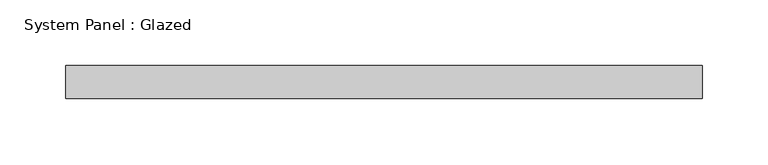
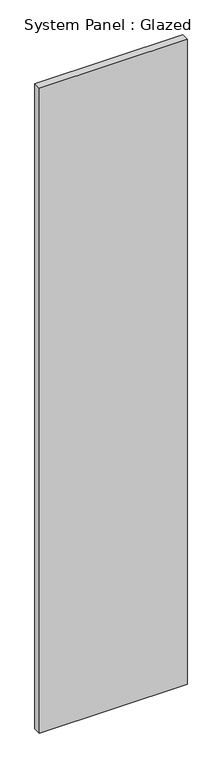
"""IFC4 building model written with IfcOpenShell, lengths in millimetres: plate geometry, System Panel : Glazed."""

from ifc_helpers import new_model, si_unit, origin, origin_with_axes, place, context, project, spatial, polyline, outline, extrude, source, transform, mapped, element, save


def system_panel_glazed_dae2c24c(model_context):
    return source(origin(), model_context, "Body", "SweptSolid", [
        extrude(outline(polyline([(241.0416667, 24.5), (-241.0416667, 24.5), (-241.0416667, 49.5), (241.0416667, 49.5), (241.0416667, 24.5)])), origin_with_axes(), (0.0, 0.0, 1.0), 2225.0),
    ])


if __name__ == "__main__":
    model = new_model("IFC4")
    model_context = context("Model", 3, world=origin())
    ifc_project = project(units=[si_unit("LENGTHUNIT", "METRE", prefix="MILLI")], contexts=[model_context])
    site = spatial("IfcSite", under=ifc_project)
    building = spatial("IfcBuilding", under=site)
    placement = place(None, origin())
    system_panel_glazed_shape = system_panel_glazed_dae2c24c(model_context)
    element("IfcPlate", 1, ObjectType="System Panel : Glazed", at=placement, inside=building, context=model_context, shape_type="MappedRepresentation", body=[
        mapped(system_panel_glazed_shape, transform((0.0, 0.0, 0.0), x_axis=(1.0, 0.0, 0.0), y_axis=(0.0, 1.0, 0.0), z_axis=(0.0, 0.0, 1.0))),
    ])
    save(model, "model.ifc")
